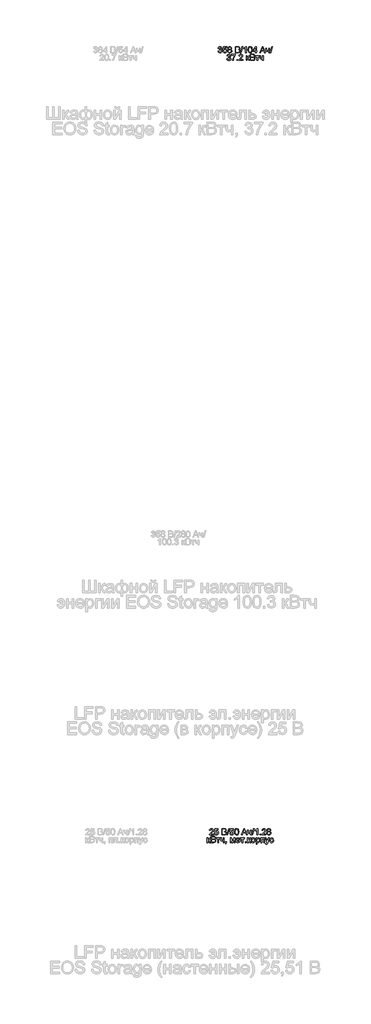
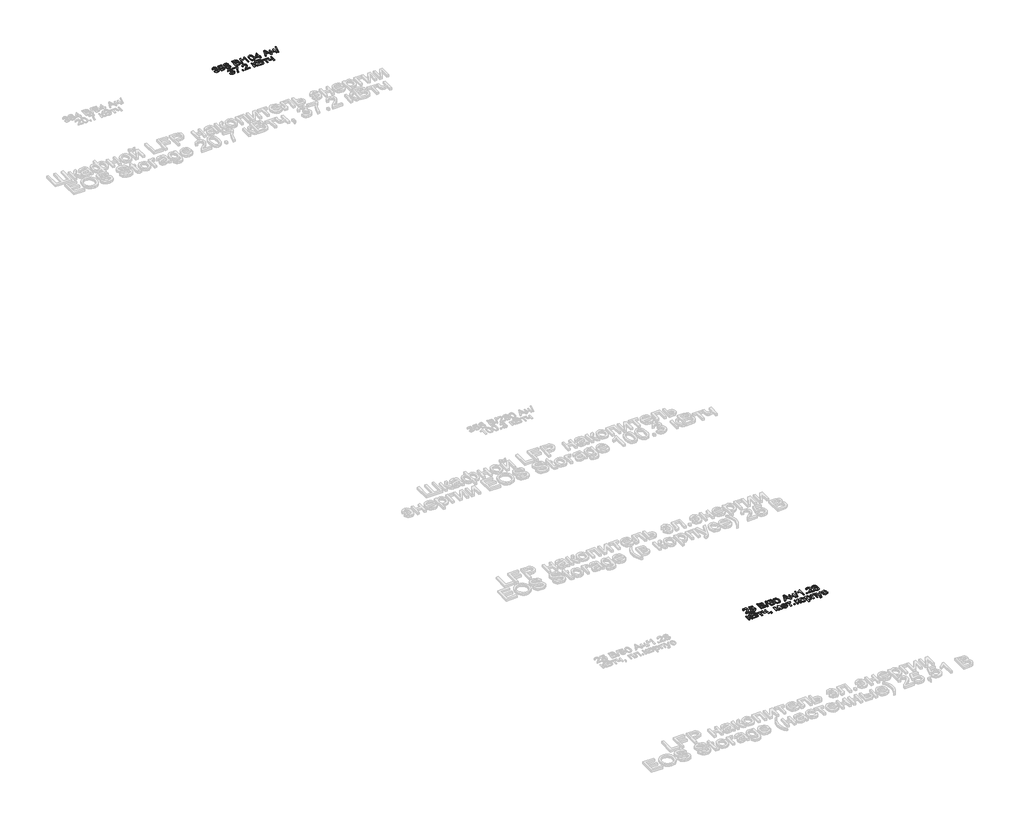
# One storey, part 26 of 26: 2 proxies.
"""IFC4 building model written with IfcOpenShell, lengths in millimetres."""

import ifcopenshell
import ifcopenshell.guid

model = None  # the IFC model being written
_history = None  # IfcOwnerHistory: only IFC2X3 demands one
_inside = {}  # id of a spatial element -> (the spatial element, [elements in it])
_under = {}  # id of a project, library or spatial element -> (it, [spatial elements below it])
_declared = {}  # id of a project -> (the project, [libraries it declares])
_typed = {}  # id of a type object -> (the type object, [elements of that type])
_made_of = {}  # id of a material, layer set ... -> (it, [elements and type objects made of it])


def new_model(schema):
    """Start an empty IFC model of exactly this schema.

    Asked for "IFC4X3", IfcOpenShell would pick the latest addendum, in which some entities
    have other attributes; the version numbers below select the first issue.
    IFC2X3 requires an IfcOwnerHistory on every rooted entity: one is made here for all.
    """
    global model, _history
    if schema == "IFC4X3":
        model = ifcopenshell.file(schema_version=(4, 3, 0, 0))
    else:
        model = ifcopenshell.file(schema=schema)
    _inside.clear()
    _under.clear()
    _declared.clear()
    _typed.clear()
    _made_of.clear()
    _history = None
    if model.schema == "IFC2X3":
        org = make("IfcOrganization", Name="unknown")
        user = make(
            "IfcPersonAndOrganization",
            ThePerson=make("IfcPerson", FamilyName="unknown"),
            TheOrganization=org,
        )
        app = make(
            "IfcApplication",
            ApplicationDeveloper=org,
            Version="unknown",
            ApplicationFullName="unknown",
            ApplicationIdentifier="unknown",
        )
        _history = make(
            "IfcOwnerHistory",
            OwningUser=user,
            OwningApplication=app,
            ChangeAction="ADDED",
            CreationDate=0,
        )
    return model


def make(cls, **values):
    """One entity of the class cls with the attributes given. An attribute that is None is left unset."""
    return model.create_entity(
        cls, **{name: value for name, value in values.items() if value is not None}
    )


def rooted(cls, **values):
    """An entity with a GlobalId (a new one), such as an element, a storey or a relation."""
    return make(cls, GlobalId=ifcopenshell.guid.new(), OwnerHistory=_history, **values)


def si_unit(unit_type, name, prefix=None):
    """IfcSIUnit, for example si_unit("LENGTHUNIT", "METRE", prefix="MILLI")."""
    return make("IfcSIUnit", UnitType=unit_type, Prefix=prefix, Name=name)


def assignment(units):
    """IfcUnitAssignment: the units of a project."""
    return None if units is None else make("IfcUnitAssignment", Units=units)


def point(xyz):
    """IfcCartesianPoint."""
    return None if xyz is None else make("IfcCartesianPoint", Coordinates=xyz)


def direction(xyz):
    """IfcDirection."""
    return None if xyz is None else make("IfcDirection", DirectionRatios=xyz)


def frame(location, z_axis=None, x_axis=None):
    """IfcAxis2Placement3D, a coordinate frame: its origin and axes. An axis left out is left unset."""
    return make(
        "IfcAxis2Placement3D",
        Location=point(location),
        Axis=direction(z_axis),
        RefDirection=direction(x_axis),
    )


def origin():
    """The frame at (0, 0, 0) with its axes left unset."""
    return frame((0.0, 0.0, 0.0))


def origin_with_axes():
    """The frame at (0, 0, 0) with the z axis (0, 0, 1) and the x axis (1, 0, 0) written out."""
    return frame((0.0, 0.0, 0.0), z_axis=(0.0, 0.0, 1.0), x_axis=(1.0, 0.0, 0.0))


def place(relative_to, where):
    """IfcLocalPlacement: puts the frame where relative to a parent placement (None: the world)."""
    return make(
        "IfcLocalPlacement", PlacementRelTo=relative_to, RelativePlacement=where
    )


def context(
    kind, dimensions, precision=None, world=None, true_north=None, identifier=None
):
    """IfcGeometricRepresentationContext, for example the 3D "Model" context."""
    return make(
        "IfcGeometricRepresentationContext",
        ContextIdentifier=identifier,
        ContextType=kind,
        CoordinateSpaceDimension=dimensions,
        Precision=precision,
        WorldCoordinateSystem=world,
        TrueNorth=true_north,
    )


def project(units=None, contexts=None):
    """IfcProject with its units and contexts."""
    return rooted(
        "IfcProject",
        Name="project",
        RepresentationContexts=contexts,
        UnitsInContext=assignment(units),
    )


def spatial(cls, under=None, at=None, **own):
    """A site, building, storey or space (cls), placed at a placement, below another one or the project."""
    s = rooted(cls, ObjectPlacement=at, **own)
    if under is not None:
        _under.setdefault(under.id(), (under, []))[1].append(s)
    return s


def polyline(points):
    """IfcPolyline through the points."""
    return make("IfcPolyline", Points=[point(p) for p in points])


def outline(outer, holes=None, kind="AREA"):
    """IfcArbitraryClosedProfileDef: a profile drawn as a closed curve; with holes, ...WithVoids."""
    if holes is None:
        return make("IfcArbitraryClosedProfileDef", ProfileType=kind, OuterCurve=outer)
    return make(
        "IfcArbitraryProfileDefWithVoids",
        ProfileType=kind,
        OuterCurve=outer,
        InnerCurves=holes,
    )


def extrude(swept, where, along, depth):
    """IfcExtrudedAreaSolid: the profile swept, set in the frame where, extruded along a direction by depth."""
    return make(
        "IfcExtrudedAreaSolid",
        SweptArea=swept,
        Position=where,
        ExtrudedDirection=direction(along),
        Depth=depth,
    )


def shape(context_of_items, identifier, shape_type, items):
    """IfcShapeRepresentation: the items that make up one representation, for example the "Body"."""
    return make(
        "IfcShapeRepresentation",
        ContextOfItems=context_of_items,
        RepresentationIdentifier=identifier,
        RepresentationType=shape_type,
        Items=items,
    )


def made_of(thing, what):
    """Note that an element or type object is made of a material, layer set ...; save() writes the relation."""
    if what is not None:
        _made_of.setdefault(what.id(), (what, []))[1].append(thing)
    return thing


def element(
    cls,
    number,
    at=None,
    inside=None,
    cuts=None,
    type_object=None,
    material=None,
    context=None,
    identifier="Body",
    shape_type=None,
    held_by="IfcProductDefinitionShape",
    body=None,
    shapes=None,
    **own,
):
    """One element of the class cls, such as IfcWall. Its Tag is "e" and its number.

    at: its placement. inside: the storey or other place that contains it. cuts: it is an
    opening in that element (IfcRelVoidsElement). A single representation is given by context,
    identifier, shape_type and body (its items); several are given by shapes. held_by: the class
    of the entity that holds the representations. save() writes the other relations.
    """
    e = rooted(cls, Tag="e%d" % number, ObjectPlacement=at, **own)
    if body is not None:
        shapes = [shape(context, identifier, shape_type, body)]
    if shapes is not None:
        e.Representation = make(held_by, Representations=shapes)
    if inside is not None:
        _inside.setdefault(inside.id(), (inside, []))[1].append(e)
    if cuts is not None:
        rooted(
            "IfcRelVoidsElement", RelatingBuildingElement=cuts, RelatedOpeningElement=e
        )
    if type_object is not None:
        _typed.setdefault(type_object.id(), (type_object, []))[1].append(e)
    return made_of(e, material)


def aggregate(whole, parts):
    """IfcRelAggregates: a whole, such as a stair, and the parts it consists of."""
    return rooted("IfcRelAggregates", RelatingObject=whole, RelatedObjects=parts)


def save(model, path):
    """Write the relations noted so far, then the file.

    IfcRelAggregates (storeys below a building ...), IfcRelContainedInSpatialStructure (elements
    in a storey), IfcRelDefinesByType, IfcRelAssociatesMaterial and IfcRelDeclares: one each for
    every whole, place, type object, material and project.
    """
    for whole, parts in _under.values():
        aggregate(whole, parts)
    for where, things in _inside.values():
        rooted(
            "IfcRelContainedInSpatialStructure",
            RelatedElements=things,
            RelatingStructure=where,
        )
    for kind, things in _typed.values():
        rooted("IfcRelDefinesByType", RelatedObjects=things, RelatingType=kind)
    for what, things in _made_of.values():
        rooted("IfcRelAssociatesMaterial", RelatedObjects=things, RelatingMaterial=what)
    for by, libraries in _declared.values():
        rooted("IfcRelDeclares", RelatingContext=by, RelatedDefinitions=libraries)
    model.write(path)


model = new_model("IFC4")

# Units and contexts
model_context = context("Model", 3, world=origin())
ifc_project = project(units=[si_unit("LENGTHUNIT", "METRE", prefix="MILLI")], contexts=[model_context])

# Site, building, storey
site = spatial("IfcSite", under=ifc_project)
building = spatial("IfcBuilding", under=site)
storey = spatial("IfcBuildingStorey", under=building, Name="Этаж 01", Elevation=0.0)

# Proxies
placement = place(None, origin())
element("IfcBuildingElementProxy", 1, Name="75 мм Arial", ObjectType="75 мм Arial", at=placement, inside=storey, context=model_context, shape_type="SweptSolid", body=[
    extrude(outline(polyline([(15903.9433357, -15385.2842708), (15903.9433357, -15394.7020499), (15854.4999955, -15394.7020499), (15855.511671, -15388.2089327), (15861.2322361, -15378.2117395), (15873.022854, -15367.2948413), (15889.2832382, -15351.6046742), (15893.3483342, -15340.9360963), (15889.5131644, -15332.3000665), (15879.4975771, -15328.7775964), (15869.0589255, -15332.217293), (15865.094997, -15341.7270426), (15855.6772179, -15340.5498202), (15857.9603856, -15331.4401423), (15862.8969021, -15324.7860767), (15870.2292501, -15320.7163821), (15879.6999122, -15319.3598173), (15889.2395522, -15320.8681335), (15896.5581046, -15325.393082), (15901.2141111, -15332.1529137), (15902.7661133, -15340.3658792), (15901.0922502, -15349.2962146), (15895.5280351, -15358.5300527), (15882.0359629, -15371.4335137), (15871.2018381, -15380.4926078), (15866.9528011, -15385.2842708), (15903.9433357, -15385.2842708)])), origin_with_axes(), (0.0, 0.0, 1.0), 5.0),
    extrude(outline(polyline([(15913.3611148, -15374.6892694), (15922.7788938, -15373.512047), (15927.5245716, -15383.2149346), (15937.365415, -15386.4614932), (15949.174427, -15381.9457417), (15953.3866758, -15369.9619857), (15949.4411414, -15358.7783731), (15937.5125678, -15354.6764888), (15929.2444199, -15356.3135637), (15923.9561162, -15360.5626007), (15914.5383372, -15359.3853784), (15922.7788938, -15320.5370397), (15959.2727878, -15320.5370397), (15959.2727878, -15329.9548187), (15930.3940511, -15329.9548187), (15926.3657433, -15350.7033633), (15940.142924, -15345.2587097), (15948.9422015, -15346.9463684), (15956.2469584, -15352.0093444), (15961.1650808, -15359.7256692), (15962.8044549, -15369.3733745), (15961.3283284, -15378.7911536), (15956.8999489, -15386.8477693), (15948.4202689, -15393.6213965), (15937.3286268, -15395.8792723), (15928.0786938, -15394.4284377), (15920.7095576, -15390.0759338), (15915.658078, -15383.3275985), (15913.3611148, -15374.6892694)])), origin_with_axes(), (0.0, 0.0, 1.0), 5.0),
    extrude(outline(polyline([(16004.0072384, -15394.7020499), (16004.0072384, -15319.3598173), (16032.7572163, -15319.3598173), (16046.8378997, -15321.5763063), (16055.1520328, -15328.3913203), (16058.1594681, -15338.0298285), (16055.6302794, -15346.8314053), (16047.9875309, -15353.4992664), (16057.2673542, -15360.5258125), (16060.5139128, -15372.2428541), (16058.2974238, -15382.368806), (16052.806785, -15389.5792931), (16044.6122136, -15393.4052659), (16032.5364871, -15394.7020499), (16004.0072384, -15394.7020499)]), holes=[polyline([(16013.4250175, -15349.9675993), (16030.6235007, -15349.9675993), (16040.6666792, -15349.1582589), (16046.709141, -15345.672577), (16048.741689, -15339.5381447), (16046.8470967, -15333.3945154), (16041.4208373, -15329.7616807), (16029.3175196, -15328.7775964), (16013.4250175, -15328.7775964), (16013.4250175, -15349.9675993)]), polyline([(16013.4250175, -15385.2842708), (16032.7388222, -15385.2842708), (16039.7285801, -15384.9163888), (16045.6422832, -15382.8654467), (16049.5602264, -15378.680789), (16051.0961338, -15372.3348246), (16049.293512, -15365.0139729), (16043.4533853, -15360.6453742), (16031.8191172, -15359.3853784), (16013.4250175, -15359.3853784), (16013.4250175, -15385.2842708)])]), origin_with_axes(), (0.0, 0.0, 1.0), 5.0),
    extrude(outline(polyline([(16065.2228024, -15394.7020499), (16086.4128053, -15319.3598173), (16094.9108794, -15319.3598173), (16073.7208765, -15394.7020499), (16065.2228024, -15394.7020499)])), origin_with_axes(), (0.0, 0.0, 1.0), 5.0),
    extrude(outline(polyline([(16099.3622515, -15374.6892694), (16108.7800306, -15373.512047), (16113.5257083, -15383.2149346), (16123.3665517, -15386.4614932), (16135.1755638, -15381.9457417), (16139.3878126, -15369.9619857), (16135.4422782, -15358.7783731), (16123.5137045, -15354.6764888), (16115.2455567, -15356.3135637), (16109.957253, -15360.5626007), (16100.5394739, -15359.3853784), (16108.7800306, -15320.5370397), (16145.2739245, -15320.5370397), (16145.2739245, -15329.9548187), (16116.3951879, -15329.9548187), (16112.3668801, -15350.7033633), (16126.1440608, -15345.2587097), (16134.9433383, -15346.9463684), (16142.2480951, -15352.0093444), (16147.1662175, -15359.7256692), (16148.8055917, -15369.3733745), (16147.3294652, -15378.7911536), (16142.9010857, -15386.8477693), (16134.4214057, -15393.6213965), (16123.3297635, -15395.8792723), (16114.0798306, -15394.4284377), (16106.7106944, -15390.0759338), (16101.6592147, -15383.3275985), (16099.3622515, -15374.6892694)])), origin_with_axes(), (0.0, 0.0, 1.0), 5.0),
    extrude(outline(polyline([(16157.0461484, -15357.6379389), (16159.8144604, -15335.9604923), (16168.036623, -15323.4617015), (16181.7678185, -15319.3598173), (16192.7674901, -15321.7878385), (16200.3642533, -15328.7867934), (16204.7788372, -15339.9336179), (16206.4894885, -15357.6379389), (16203.7487677, -15379.223415), (16195.5541962, -15391.7497969), (16181.7678185, -15395.8792723), (16171.9821574, -15394.0858476), (16164.5509411, -15388.7055734), (16158.9223466, -15375.9630608), (16157.0461484, -15357.6379389)]), holes=[polyline([(16166.4639275, -15357.6195448), (16167.5675734, -15372.4336929), (16170.8785114, -15381.0076426), (16181.7678185, -15386.4614932), (16192.6571255, -15380.9892485), (16195.9680635, -15372.4107003), (16197.0717095, -15357.6195448), (16192.8042783, -15334.4981614), (16181.6574539, -15328.7775964), (16171.0256642, -15333.8175797), (16167.6043616, -15342.9962355), (16166.4639275, -15357.6195448)])]), origin_with_axes(), (0.0, 0.0, 1.0), 5.0),
    extrude(outline(polyline([(16238.9182864, -15394.7020499), (16268.9926395, -15319.3598173), (16277.012467, -15319.3598173), (16307.0868201, -15394.7020499), (16297.1356121, -15394.7020499), (16288.5087794, -15371.1576022), (16257.4779331, -15371.1576022), (16248.8694944, -15394.7020499), (16238.9182864, -15394.7020499)]), holes=[polyline([(16260.9360238, -15361.7398231), (16285.0690827, -15361.7398231), (16278.2816599, -15343.2169647), (16273.0025533, -15328.7775964), (16268.3120578, -15341.5982839), (16260.9360238, -15361.7398231)])]), origin_with_axes(), (0.0, 0.0, 1.0), 5.0),
    extrude(outline(polyline([(16312.4395031, -15339.3725978), (16321.8572822, -15339.3725978), (16321.8572822, -15349.9859934), (16322.6206374, -15359.9372014), (16326.2902603, -15365.3266726), (16333.5743238, -15367.6259351), (16346.5789523, -15364.7748496), (16346.5789523, -15339.3725978), (16355.9967314, -15339.3725978), (16355.9967314, -15394.7020499), (16346.5789523, -15394.7020499), (16346.5789523, -15373.8063526), (16331.0543321, -15377.0437141), (16320.3765572, -15373.6683968), (16314.0949721, -15365.400249), (16312.4395031, -15354.6397006), (16312.4395031, -15339.3725978)])), origin_with_axes(), (0.0, 0.0, 1.0), 5.0),
    extrude(outline(polyline([(16363.0600657, -15394.7020499), (16384.2500686, -15319.3598173), (16392.7481427, -15319.3598173), (16371.5581398, -15394.7020499), (16363.0600657, -15394.7020499)])), origin_with_axes(), (0.0, 0.0, 1.0), 5.0),
    extrude(outline(polyline([(16432.5161864, -15394.7020499), (16423.0984073, -15394.7020499), (16423.0984073, -15335.9880835), (16414.1772689, -15342.3432449), (16404.2628491, -15347.0981197), (16404.2628491, -15338.1953754), (16418.067621, -15329.3846017), (16426.4461334, -15319.3598173), (16432.5161864, -15319.3598173), (16432.5161864, -15394.7020499)])), origin_with_axes(), (0.0, 0.0, 1.0), 5.0),
    extrude(outline(polyline([(16459.5923012, -15394.7020499), (16459.5923012, -15385.2842708), (16469.0100803, -15385.2842708), (16469.0100803, -15394.7020499), (16459.5923012, -15394.7020499)])), origin_with_axes(), (0.0, 0.0, 1.0), 5.0),
    extrude(outline(polyline([(16532.5800891, -15385.2842708), (16532.5800891, -15394.7020499), (16483.1367489, -15394.7020499), (16484.1484244, -15388.2089327), (16489.8689894, -15378.2117395), (16501.6596074, -15367.2948413), (16517.9199915, -15351.6046742), (16521.9850876, -15340.9360963), (16518.1499178, -15332.3000665), (16508.1343305, -15328.7775964), (16497.6956789, -15332.217293), (16493.7317504, -15341.7270426), (16484.3139713, -15340.5498202), (16486.5971389, -15331.4401423), (16491.5336554, -15324.7860767), (16498.8660035, -15320.7163821), (16508.3366656, -15319.3598173), (16517.8763056, -15320.8681335), (16525.194858, -15325.393082), (16529.8508645, -15332.1529137), (16531.4028667, -15340.3658792), (16529.7290036, -15349.2962146), (16524.1647884, -15358.5300527), (16510.6727162, -15371.4335137), (16499.8385915, -15380.4926078), (16495.5895544, -15385.2842708), (16532.5800891, -15385.2842708)])), origin_with_axes(), (0.0, 0.0, 1.0), 5.0),
    extrude(outline(polyline([(16555.7198665, -15353.2049608), (16547.139019, -15347.3556371), (16544.3523129, -15338.2505577), (16545.8698261, -15330.8883193), (16550.4223658, -15324.8044708), (16557.4994957, -15320.7209807), (16566.5907795, -15319.3598173), (16575.7372456, -15320.7531703), (16582.906346, -15324.9332295), (16587.5416591, -15331.113647), (16589.0867635, -15338.5080751), (16586.3368456, -15347.3832283), (16577.9951214, -15353.2049608), (16588.0107087, -15360.5901919), (16591.4412083, -15372.776283), (16589.7397541, -15381.7801948), (16584.6353914, -15389.2206082), (16576.7535196, -15394.2146063), (16566.7195382, -15395.8792723), (16556.6855568, -15394.2077085), (16548.803685, -15389.193017), (16543.6993224, -15381.6813265), (16541.9978681, -15372.5187656), (16545.5663235, -15360.047566), (16555.7198665, -15353.2049608)]), holes=[polyline([(16553.770092, -15338.5264692), (16557.1086211, -15345.9208973), (16566.8299028, -15348.7903769), (16576.3580465, -15345.9392914), (16579.6689844, -15338.9495335), (16576.2476819, -15331.7114553), (16566.7195382, -15328.7775964), (16557.1638034, -15331.6470759), (16553.770092, -15338.5264692)]), polyline([(16551.4156472, -15372.1876718), (16552.9883427, -15379.2785972), (16558.5525579, -15384.585295), (16566.7931146, -15386.4614932), (16578.0135155, -15382.5159588), (16582.0234292, -15372.4819774), (16577.8847568, -15362.2548579), (16566.4804149, -15358.208156), (16555.3979698, -15362.1996756), (16551.4156472, -15372.1876718)])]), origin_with_axes(), (0.0, 0.0, 1.0), 5.0),
    extrude(outline(polyline([(15827.4238807, -15430.8537112), (15836.8416598, -15430.8537112), (15836.8416598, -15454.3981589), (15843.150836, -15452.7059017), (15848.319578, -15442.8466642), (15852.6146003, -15434.3393931), (15856.4037849, -15431.5710811), (15863.2923752, -15430.8537112), (15865.094997, -15430.8537112), (15865.094997, -15440.3266726), (15862.5566112, -15440.2714903), (15857.9580863, -15441.2647717), (15854.7207247, -15447.4635833), (15850.9223431, -15454.1682327), (15845.5972513, -15457.4515795), (15857.3694751, -15468.8375272), (15867.4494418, -15486.1831633), (15856.7440757, -15486.1831633), (15846.8664441, -15469.2054092), (15841.9000372, -15462.0225132), (15836.8416598, -15460.2842708), (15836.8416598, -15486.1831633), (15827.4238807, -15486.1831633), (15827.4238807, -15430.8537112)])), origin_with_axes(), (0.0, 0.0, 1.0), 5.0),
    extrude(outline(polyline([(15874.5127761, -15486.1831633), (15874.5127761, -15410.8409307), (15903.262754, -15410.8409307), (15917.3434374, -15413.0574197), (15925.6575705, -15419.8724337), (15928.6650058, -15429.5109419), (15926.1358171, -15438.3125187), (15918.4930686, -15444.9803798), (15927.7728919, -15452.0069259), (15931.0194505, -15463.7239675), (15928.8029615, -15473.8499194), (15923.3123227, -15481.0604065), (15915.1177513, -15484.8863792), (15903.0420248, -15486.1831633), (15874.5127761, -15486.1831633)]), holes=[polyline([(15883.9305552, -15441.4487127), (15901.1290384, -15441.4487127), (15911.1722169, -15440.6393723), (15917.2146787, -15437.1536904), (15919.2472267, -15431.0192581), (15917.3526344, -15424.8756288), (15911.926375, -15421.2427941), (15899.8230573, -15420.2587097), (15883.9305552, -15420.2587097), (15883.9305552, -15441.4487127)]), polyline([(15883.9305552, -15476.7653842), (15903.2443599, -15476.7653842), (15910.2341178, -15476.3975022), (15916.1478209, -15474.3465601), (15920.0657641, -15470.1619024), (15921.6016715, -15463.815938), (15919.7990497, -15456.4950863), (15913.958923, -15452.1264876), (15902.3246549, -15450.8664917), (15883.9305552, -15450.8664917), (15883.9305552, -15476.7653842)])]), origin_with_axes(), (0.0, 0.0, 1.0), 5.0),
    extrude(outline(polyline([(15938.0827848, -15430.8537112), (15982.8172355, -15430.8537112), (15982.8172355, -15440.2714903), (15965.1588997, -15440.2714903), (15965.1588997, -15486.1831633), (15955.7411206, -15486.1831633), (15955.7411206, -15440.2714903), (15938.0827848, -15440.2714903), (15938.0827848, -15430.8537112)])), origin_with_axes(), (0.0, 0.0, 1.0), 5.0),
    extrude(outline(polyline([(15987.526125, -15430.8537112), (15996.9439041, -15430.8537112), (15996.9439041, -15441.4671068), (15997.7072592, -15451.4183147), (16001.3768821, -15456.807786), (16008.6609456, -15459.1070484), (16021.6655741, -15456.255963), (16021.6655741, -15430.8537112), (16031.0833532, -15430.8537112), (16031.0833532, -15486.1831633), (16021.6655741, -15486.1831633), (16021.6655741, -15465.287466), (16006.140954, -15468.5248275), (15995.463179, -15465.1495102), (15989.181594, -15456.8813624), (15987.526125, -15446.120814), (15987.526125, -15430.8537112)])), origin_with_axes(), (0.0, 0.0, 1.0), 5.0),
    extrude(outline(polyline([(16047.5644666, -15486.1831633), (16047.5644666, -15476.7653842), (16056.9822457, -15476.7653842), (16056.9822457, -15486.1831633), (16055.2899885, -15495.8124745), (16049.9189114, -15501.4870543), (16047.5644666, -15497.9553871), (16051.0225574, -15493.8902911), (16052.254962, -15486.1831633), (16047.5644666, -15486.1831633)])), origin_with_axes(), (0.0, 0.0, 1.0), 5.0),
    extrude(outline(polyline([(16104.0711411, -15430.8537112), (16120.276343, -15430.8537112), (16132.7659367, -15475.1467034), (16146.2304177, -15430.8537112), (16161.7550379, -15430.8537112), (16161.7550379, -15486.1831633), (16152.3372588, -15486.1831633), (16152.3372588, -15441.6326537), (16138.7992014, -15486.1831633), (16126.4383664, -15486.1831633), (16113.4889201, -15439.4989381), (16113.4889201, -15486.1831633), (16104.0711411, -15486.1831633), (16104.0711411, -15430.8537112)])), origin_with_axes(), (0.0, 0.0, 1.0), 5.0),
    extrude(outline(polyline([(16214.6196806, -15469.7020499), (16223.8535187, -15470.8792723), (16215.2174889, -15483.0377722), (16199.1318486, -15487.3603857), (16188.0815932, -15485.4956838), (16179.5789206, -15479.9015782), (16174.1572597, -15470.9413524), (16172.3500394, -15458.9782897), (16174.1756538, -15446.6128562), (16179.652497, -15437.3652225), (16188.0402065, -15431.5986722), (16198.5984197, -15429.6764888), (16208.8278385, -15431.5940737), (16217.0017165, -15437.3468284), (16222.3612974, -15446.576068), (16224.1478243, -15458.9231074), (16224.092642, -15461.4614932), (16181.7678185, -15461.4614932), (16187.1848808, -15473.6935695), (16199.3157896, -15477.9426066), (16208.5496277, -15475.9744379), (16214.6196806, -15469.7020499)]), holes=[polyline([(16181.7678185, -15452.0437141), (16214.7300452, -15452.0437141), (16210.9592548, -15443.5088518), (16198.5616315, -15439.0942679), (16186.9641516, -15442.616738), (16181.7678185, -15452.0437141)])]), origin_with_axes(), (0.0, 0.0, 1.0), 5.0),
    extrude(outline(polyline([(16228.8567138, -15430.8537112), (16273.5911644, -15430.8537112), (16273.5911644, -15440.2714903), (16255.9328287, -15440.2714903), (16255.9328287, -15486.1831633), (16246.5150496, -15486.1831633), (16246.5150496, -15440.2714903), (16228.8567138, -15440.2714903), (16228.8567138, -15430.8537112)])), origin_with_axes(), (0.0, 0.0, 1.0), 5.0),
    extrude(outline(polyline([(16284.1861659, -15486.1831633), (16284.1861659, -15476.7653842), (16293.603945, -15476.7653842), (16293.603945, -15486.1831633), (16284.1861659, -15486.1831633)])), origin_with_axes(), (0.0, 0.0, 1.0), 5.0),
    extrude(outline(polyline([(16311.2622808, -15430.8537112), (16320.6800598, -15430.8537112), (16320.6800598, -15454.3981589), (16326.989236, -15452.7059017), (16332.1579781, -15442.8466642), (16336.4530004, -15434.3393931), (16340.2421849, -15431.5710811), (16347.1307753, -15430.8537112), (16348.9333971, -15430.8537112), (16348.9333971, -15440.3266726), (16346.3950113, -15440.2714903), (16341.7964864, -15441.2647717), (16338.5591248, -15447.4635833), (16334.7607432, -15454.1682327), (16329.4356513, -15457.4515795), (16341.2078752, -15468.8375272), (16351.2878418, -15486.1831633), (16340.5824758, -15486.1831633), (16330.7048442, -15469.2054092), (16325.7384373, -15462.0225132), (16320.6800598, -15460.2842708), (16320.6800598, -15486.1831633), (16311.2622808, -15486.1831633), (16311.2622808, -15430.8537112)])), origin_with_axes(), (0.0, 0.0, 1.0), 5.0),
    extrude(outline(polyline([(16354.819509, -15458.5184372), (16356.8566555, -15445.1781164), (16362.9680952, -15435.801724), (16370.5188731, -15431.2077976), (16379.5595732, -15429.6764888), (16389.4532996, -15431.5411907), (16397.3558647, -15437.1352963), (16402.536103, -15446.0173472), (16404.2628491, -15457.7458851), (16401.2094286, -15474.5029099), (16392.3158813, -15483.9850684), (16379.5595732, -15487.3603857), (16369.5462851, -15485.5025816), (16361.652917, -15479.9291694), (16356.527861, -15470.8608782), (16354.819509, -15458.5184372)]), holes=[polyline([(16364.2372881, -15458.5000431), (16368.5966897, -15473.0957613), (16379.5595732, -15477.9426066), (16390.4856684, -15473.0681702), (16394.8450701, -15458.2057375), (16390.4580773, -15443.9411132), (16379.5595732, -15439.0942679), (16368.5966897, -15443.9227191), (16364.2372881, -15458.5000431)])]), origin_with_axes(), (0.0, 0.0, 1.0), 5.0),
    extrude(outline(polyline([(16414.8578506, -15507.3731662), (16414.8578506, -15430.8537112), (16424.2756297, -15430.8537112), (16424.2756297, -15440.0875493), (16430.787141, -15432.2792539), (16439.5795207, -15429.6764888), (16451.5172914, -15433.3185206), (16459.3163897, -15443.5824282), (16461.946746, -15458.0953729), (16458.9760989, -15473.3532787), (16450.3492661, -15483.7459451), (16438.4390865, -15487.3603857), (16430.244515, -15484.9415615), (16424.2756297, -15478.8255234), (16424.2756297, -15507.3731662), (16414.8578506, -15507.3731662)]), holes=[polyline([(16424.2756297, -15458.9598956), (16428.3499228, -15473.3072935), (16438.2367514, -15477.9426066), (16448.3259151, -15473.1417466), (16452.5289669, -15458.2609198), (16448.4270827, -15443.8767338), (16438.6230275, -15439.0942679), (16428.6258343, -15444.1802365), (16424.2756297, -15458.9598956)])]), origin_with_axes(), (0.0, 0.0, 1.0), 5.0),
    extrude(outline(polyline([(16472.5417474, -15430.8537112), (16514.9217533, -15430.8537112), (16514.9217533, -15486.1831633), (16505.5039742, -15486.1831633), (16505.5039742, -15440.2714903), (16481.9595265, -15440.2714903), (16481.9595265, -15486.1831633), (16472.5417474, -15486.1831633), (16472.5417474, -15430.8537112)])), origin_with_axes(), (0.0, 0.0, 1.0), 5.0),
    extrude(outline(polyline([(16529.0484219, -15507.3731662), (16527.8711995, -15498.304875), (16532.6536655, -15499.1326095), (16537.1234317, -15498.0933429), (16539.8641526, -15495.1962722), (16542.4393265, -15488.2616966), (16543.1750905, -15485.9808282), (16523.16231, -15430.8537112), (16533.0951238, -15430.8537112), (16543.7085194, -15461.5718578), (16547.4057335, -15473.8591164), (16551.1029475, -15463.0065976), (16562.0106487, -15430.8537112), (16571.8698861, -15430.8537112), (16552.6112637, -15487.5075385), (16547.6080686, -15499.7947971), (16542.1450209, -15506.4350671), (16534.8057751, -15508.5503886), (16529.0484219, -15507.3731662)])), origin_with_axes(), (0.0, 0.0, 1.0), 5.0),
    extrude(outline(polyline([(16614.985656, -15466.1703827), (16624.403435, -15467.3476051), (16616.84346, -15482.0536879), (16601.907451, -15487.3603857), (16591.8895645, -15485.5094794), (16584.0559772, -15479.9567605), (16578.9998991, -15470.9459509), (16577.3145397, -15458.7207723), (16580.1932163, -15443.0765905), (16588.9672019, -15433.024215), (16601.7786923, -15429.6764888), (16616.098499, -15434.2750138), (16623.2262127, -15447.3348246), (16613.8084336, -15448.512047), (16609.4398349, -15441.4579097), (16601.8522687, -15439.0942679), (16590.9353705, -15443.7479751), (16586.7323187, -15458.4632549), (16590.8434, -15473.3164905), (16601.5947513, -15477.9426066), (16610.4699045, -15475.0547329), (16614.985656, -15466.1703827)])), origin_with_axes(), (0.0, 0.0, 1.0), 5.0),
])
element("IfcBuildingElementProxy", 2, Name="75 мм Arial", ObjectType="75 мм Arial", at=placement, inside=storey, context=model_context, shape_type="SweptSolid", body=[
    extrude(outline(polyline([(15958.4812532, -6023.5163165), (15967.8990323, -6022.3390941), (15973.0953655, -6032.2535139), (15982.8166472, -6035.2885403), (15994.2577772, -6031.1130797), (15998.5068143, -6020.7755956), (15994.2945654, -6011.0359198), (15983.5891994, -6007.1823559), (15976.9857176, -6008.2124255), (15978.0341812, -5998.7946464), (15990.2294694, -5996.2010783), (15994.9751471, -5987.8869452), (15991.5354505, -5980.5201083), (15982.6694944, -5977.6046435), (15973.6931737, -5980.5476994), (15969.0762547, -5989.3768673), (15959.6584756, -5988.1996449), (15967.3656034, -5973.4291828), (15982.3384006, -5968.1868644), (15993.6967572, -5970.7712354), (16001.6430083, -5977.8345697), (16004.3929262, -5987.3351222), (16001.780964, -5996.0171373), (15994.0554421, -6002.2527371), (16004.3193498, -6008.6906721), (16007.9245934, -6020.9411425), (16006.1219716, -6030.1197983), (16000.7141062, -6037.7901379), (15992.5517245, -6042.977274), (15982.4855534, -6044.7063194), (15973.380474, -6043.2301929), (15965.9676518, -6038.8018134), (15960.8127053, -6032.0281861), (15958.4812532, -6023.5163165)])), origin_with_axes(), (0.0, 0.0, 1.0), 5.0),
    extrude(outline(polyline([(16016.16515, -6023.5163165), (16025.5829291, -6022.3390941), (16030.3286069, -6032.0419817), (16040.1694502, -6035.2885403), (16051.9784623, -6030.7727888), (16056.1907111, -6018.7890328), (16052.2451767, -6007.6054202), (16040.316603, -6003.5035359), (16032.0484552, -6005.1406108), (16026.7601515, -6009.3896479), (16017.3423724, -6008.2124255), (16025.5829291, -5969.3640868), (16062.076823, -5969.3640868), (16062.076823, -5978.7818659), (16033.1980864, -5978.7818659), (16029.1697786, -5999.5304104), (16042.9469593, -5994.0857569), (16051.7462368, -5995.7734155), (16059.0509936, -6000.8363915), (16063.9691161, -6008.5527163), (16065.6084902, -6018.2004216), (16064.1323637, -6027.6182007), (16059.7039842, -6035.6748164), (16051.2243042, -6042.4484436), (16040.132662, -6044.7063194), (16030.8827291, -6043.2554848), (16023.5135929, -6038.9029809), (16018.4621132, -6032.1546456), (16016.16515, -6023.5163165)])), origin_with_axes(), (0.0, 0.0, 1.0), 5.0),
    extrude(outline(polyline([(16087.5710453, -6002.0320079), (16078.9901978, -5996.1826842), (16076.2034917, -5987.0776048), (16077.7210049, -5979.7153664), (16082.2735446, -5973.6315179), (16089.3506745, -5969.5480278), (16098.4419583, -5968.1868644), (16107.5884244, -5969.5802174), (16114.7575247, -5973.7602766), (16119.3928379, -5979.9406941), (16120.9379423, -5987.3351222), (16118.1880244, -5996.2102754), (16109.8463001, -6002.0320079), (16119.8618874, -6009.417239), (16123.292387, -6021.6033301), (16121.5909328, -6030.6072419), (16116.4865701, -6038.0476553), (16108.6046984, -6043.0416534), (16098.570717, -6044.7063194), (16088.5367355, -6043.0347556), (16080.6548638, -6038.0200641), (16075.5505011, -6030.5083736), (16073.8490469, -6021.3458127), (16077.4175022, -6008.8746131), (16087.5710453, -6002.0320079)]), holes=[polyline([(16083.266826, -6021.0147189), (16084.8395215, -6028.1056444), (16090.4037367, -6033.4123421), (16098.6442934, -6035.2885403), (16109.8646942, -6031.3430059), (16113.874608, -6021.3090245), (16109.7359355, -6011.081905), (16098.3315937, -6007.0352031), (16087.2491486, -6011.0267227), (16083.266826, -6021.0147189)]), polyline([(16085.6212707, -5987.3535163), (16088.9597998, -5994.7479444), (16098.6810816, -5997.617424), (16108.2092252, -5994.7663385), (16111.5201632, -5987.7765806), (16108.0988606, -5980.5385024), (16098.570717, -5977.6046435), (16089.0149821, -5980.474123), (16085.6212707, -5987.3535163)])]), origin_with_axes(), (0.0, 0.0, 1.0), 5.0),
    extrude(outline(polyline([(16164.4951705, -6043.529097), (16164.4951705, -5968.1868644), (16193.2451484, -5968.1868644), (16207.3258318, -5970.4033534), (16215.6399649, -5977.2183674), (16218.6474002, -5986.8568756), (16216.1182115, -5995.6584524), (16208.475463, -6002.3263135), (16217.7552863, -6009.3528597), (16221.001845, -6021.0699012), (16218.7853559, -6031.1958531), (16213.2947172, -6038.4063402), (16205.1001457, -6042.232313), (16193.0244192, -6043.529097), (16164.4951705, -6043.529097)]), holes=[polyline([(16173.9129496, -5998.7946464), (16191.1114328, -5998.7946464), (16201.1546113, -5997.985306), (16207.1970731, -5994.4996241), (16209.2296211, -5988.3651918), (16207.3350288, -5982.2215625), (16201.9087694, -5978.5887278), (16189.8054518, -5977.6046435), (16173.9129496, -5977.6046435), (16173.9129496, -5998.7946464)]), polyline([(16173.9129496, -6034.1113179), (16193.2267543, -6034.1113179), (16200.2165122, -6033.7434359), (16206.1302153, -6031.6924938), (16210.0481586, -6027.5078361), (16211.5840659, -6021.1618717), (16209.7814441, -6013.84102), (16203.9413174, -6009.4724213), (16192.3070493, -6008.2124255), (16173.9129496, -6008.2124255), (16173.9129496, -6034.1113179)])]), origin_with_axes(), (0.0, 0.0, 1.0), 5.0),
    extrude(outline(polyline([(16225.7107345, -6043.529097), (16246.9007374, -5968.1868644), (16255.3988115, -5968.1868644), (16234.2088086, -6043.529097), (16225.7107345, -6043.529097)])), origin_with_axes(), (0.0, 0.0, 1.0), 5.0),
    extrude(outline(polyline([(16295.1668552, -6043.529097), (16285.7490761, -6043.529097), (16285.7490761, -5984.8151306), (16276.8279377, -5991.170292), (16266.913518, -5995.9251668), (16266.913518, -5987.0224225), (16280.7182898, -5978.2116488), (16289.0968023, -5968.1868644), (16295.1668552, -5968.1868644), (16295.1668552, -6043.529097)])), origin_with_axes(), (0.0, 0.0, 1.0), 5.0),
    extrude(outline(polyline([(16317.5340805, -6006.464986), (16320.3023925, -5984.7875394), (16328.5245551, -5972.2887486), (16342.2557506, -5968.1868644), (16353.2554222, -5970.6148856), (16360.8521854, -5977.6138405), (16365.2667694, -5988.760665), (16366.9774206, -6006.464986), (16364.2366998, -6028.0504621), (16356.0421283, -6040.576844), (16342.2557506, -6044.7063194), (16332.4700895, -6042.9128947), (16325.0388732, -6037.5326205), (16319.4102787, -6024.7901079), (16317.5340805, -6006.464986)]), holes=[polyline([(16326.9518596, -6006.4465919), (16328.0555056, -6021.26074), (16331.3664435, -6029.8346897), (16342.2557506, -6035.2885403), (16353.1450576, -6029.8162956), (16356.4559956, -6021.2377474), (16357.5596416, -6006.4465919), (16353.2922104, -5983.3252085), (16342.145386, -5977.6046435), (16331.5135963, -5982.6446268), (16328.0922938, -5991.8232826), (16326.9518596, -6006.4465919)])]), origin_with_axes(), (0.0, 0.0, 1.0), 5.0),
    extrude(outline(polyline([(16405.8257593, -6043.529097), (16405.8257593, -6025.8707612), (16371.6863102, -6025.8707612), (16371.6863102, -6016.4529822), (16408.1802041, -5969.3640868), (16415.2435384, -5969.3640868), (16415.2435384, -6016.4529822), (16424.6613175, -6016.4529822), (16424.6613175, -6025.8707612), (16415.2435384, -6025.8707612), (16415.2435384, -6043.529097), (16405.8257593, -6043.529097)]), holes=[polyline([(16405.8257593, -6016.4529822), (16405.8257593, -5987.3535163), (16383.274593, -6016.4529822), (16405.8257593, -6016.4529822)])]), origin_with_axes(), (0.0, 0.0, 1.0), 5.0),
    extrude(outline(polyline([(16457.0901154, -6043.529097), (16487.1644685, -5968.1868644), (16495.184296, -5968.1868644), (16525.2586491, -6043.529097), (16515.3074411, -6043.529097), (16506.6806083, -6019.9846493), (16475.649762, -6019.9846493), (16467.0413233, -6043.529097), (16457.0901154, -6043.529097)]), holes=[polyline([(16479.1078528, -6010.5668702), (16503.2409117, -6010.5668702), (16496.4534888, -5992.0440118), (16491.1743822, -5977.6046435), (16486.4838868, -5990.425331), (16479.1078528, -6010.5668702)])]), origin_with_axes(), (0.0, 0.0, 1.0), 5.0),
    extrude(outline(polyline([(16530.6113321, -5988.1996449), (16540.0291112, -5988.1996449), (16540.0291112, -5998.8130405), (16540.7924663, -6008.7642485), (16544.4620892, -6014.1537197), (16551.7461527, -6016.4529822), (16564.7507812, -6013.6018967), (16564.7507812, -5988.1996449), (16574.1685603, -5988.1996449), (16574.1685603, -6043.529097), (16564.7507812, -6043.529097), (16564.7507812, -6022.6333997), (16549.2261611, -6025.8707612), (16538.5483861, -6022.4954439), (16532.2668011, -6014.2272961), (16530.6113321, -6003.4667477), (16530.6113321, -5988.1996449)])), origin_with_axes(), (0.0, 0.0, 1.0), 5.0),
    extrude(outline(polyline([(16581.2318946, -6043.529097), (16602.4218976, -5968.1868644), (16610.9199716, -5968.1868644), (16589.7299687, -6043.529097), (16581.2318946, -6043.529097)])), origin_with_axes(), (0.0, 0.0, 1.0), 5.0),
    extrude(outline(polyline([(16062.076823, -6114.9974299), (16071.4946021, -6113.8202075), (16076.6909353, -6123.7346272), (16086.412217, -6126.7696537), (16097.8533471, -6122.5941931), (16102.1023841, -6112.256709), (16097.8901353, -6102.5170332), (16087.1847692, -6098.6634693), (16080.5812874, -6099.6935389), (16081.6297511, -6090.2757598), (16093.8250392, -6087.6821917), (16098.570717, -6079.3680586), (16095.1310203, -6072.0012217), (16086.2650642, -6069.0857569), (16077.2887435, -6072.0288128), (16072.6718245, -6080.8579807), (16063.2540454, -6079.6807583), (16070.9611732, -6064.9102962), (16085.9339704, -6059.6679778), (16097.292327, -6062.2523488), (16105.2385781, -6069.3156831), (16107.988496, -6078.8162356), (16105.3765339, -6087.4982507), (16097.651012, -6093.7338505), (16107.9149196, -6100.1717854), (16111.5201632, -6112.4222559), (16109.7175414, -6121.6009117), (16104.3096761, -6129.2712513), (16096.1472943, -6134.4583874), (16086.0811232, -6136.1874328), (16076.9760438, -6134.7113063), (16069.5632216, -6130.2829268), (16064.4082752, -6123.5092995), (16062.076823, -6114.9974299)])), origin_with_axes(), (0.0, 0.0, 1.0), 5.0),
    extrude(outline(polyline([(16119.7607199, -6070.2629792), (16119.7607199, -6060.8452002), (16169.20406, -6060.8452002), (16169.20406, -6068.4603575), (16155.178559, -6088.7214583), (16144.4456018, -6114.5375774), (16140.9507228, -6135.0102104), (16131.5329437, -6135.0102104), (16135.276143, -6113.7650252), (16145.5492477, -6089.7515279), (16159.786281, -6070.2629792), (16119.7607199, -6070.2629792)])), origin_with_axes(), (0.0, 0.0, 1.0), 5.0),
    extrude(outline(polyline([(16182.1535063, -6135.0102104), (16182.1535063, -6125.5924313), (16191.5712853, -6125.5924313), (16191.5712853, -6135.0102104), (16182.1535063, -6135.0102104)])), origin_with_axes(), (0.0, 0.0, 1.0), 5.0),
    extrude(outline(polyline([(16255.1412941, -6125.5924313), (16255.1412941, -6135.0102104), (16205.697954, -6135.0102104), (16206.7096294, -6128.5170932), (16212.4301945, -6118.5199), (16224.2208124, -6107.6030017), (16240.4811966, -6091.9128347), (16244.5462926, -6081.2442568), (16240.7111228, -6072.608227), (16230.6955355, -6069.0857569), (16220.2568839, -6072.5254535), (16216.2929554, -6082.0352031), (16206.8751763, -6080.8579807), (16209.158344, -6071.7483028), (16214.0948605, -6065.0942372), (16221.4272085, -6061.0245426), (16230.8978706, -6059.6679778), (16240.4375106, -6061.176294), (16247.7560631, -6065.7012425), (16252.4120696, -6072.4610742), (16253.9640717, -6080.6740397), (16252.2902086, -6089.6043751), (16246.7259935, -6098.8382132), (16233.2339213, -6111.7416742), (16222.3997965, -6120.8007683), (16218.1507595, -6125.5924313), (16255.1412941, -6125.5924313)])), origin_with_axes(), (0.0, 0.0, 1.0), 5.0),
    extrude(outline(polyline([(16296.3440776, -6079.6807583), (16305.7618566, -6079.6807583), (16305.7618566, -6103.225206), (16312.0710329, -6101.5329488), (16317.2397749, -6091.6737114), (16321.5347972, -6083.1664402), (16325.3239817, -6080.3981282), (16332.2125721, -6079.6807583), (16334.0151939, -6079.6807583), (16334.0151939, -6089.1537197), (16331.4768081, -6089.0985374), (16326.8782832, -6090.0918188), (16323.6409216, -6096.2906304), (16319.84254, -6102.9952798), (16314.5174481, -6106.2786266), (16326.289672, -6117.6645743), (16336.3696386, -6135.0102104), (16325.6642726, -6135.0102104), (16315.786641, -6118.0324563), (16310.8202341, -6110.8495604), (16305.7618566, -6109.1113179), (16305.7618566, -6135.0102104), (16296.3440776, -6135.0102104), (16296.3440776, -6079.6807583)])), origin_with_axes(), (0.0, 0.0, 1.0), 5.0),
    extrude(outline(polyline([(16343.432973, -6135.0102104), (16343.432973, -6059.6679778), (16372.1829509, -6059.6679778), (16386.2636342, -6061.8844668), (16394.5777673, -6068.6994808), (16397.5852026, -6078.337989), (16395.0560139, -6087.1395658), (16387.4132655, -6093.8074269), (16396.6930888, -6100.833973), (16399.9396474, -6112.5510146), (16397.7231584, -6122.6769665), (16392.2325196, -6129.8874536), (16384.0379482, -6133.7134264), (16371.9622217, -6135.0102104), (16343.432973, -6135.0102104)]), holes=[polyline([(16352.850752, -6090.2757598), (16370.0492353, -6090.2757598), (16380.0924138, -6089.4664194), (16386.1348755, -6085.9807375), (16388.1674236, -6079.8463052), (16386.2728313, -6073.7026759), (16380.8465719, -6070.0698412), (16368.7432542, -6069.0857569), (16352.850752, -6069.0857569), (16352.850752, -6090.2757598)]), polyline([(16352.850752, -6125.5924313), (16372.1645568, -6125.5924313), (16379.1543147, -6125.2245493), (16385.0680178, -6123.1736072), (16388.985961, -6118.9889495), (16390.5218683, -6112.6429851), (16388.7192466, -6105.3221334), (16382.8791199, -6100.9535347), (16371.2448518, -6099.6935389), (16352.850752, -6099.6935389), (16352.850752, -6125.5924313)])]), origin_with_axes(), (0.0, 0.0, 1.0), 5.0),
    extrude(outline(polyline([(16407.0029817, -6079.6807583), (16451.7374323, -6079.6807583), (16451.7374323, -6089.0985374), (16434.0790966, -6089.0985374), (16434.0790966, -6135.0102104), (16424.6613175, -6135.0102104), (16424.6613175, -6089.0985374), (16407.0029817, -6089.0985374), (16407.0029817, -6079.6807583)])), origin_with_axes(), (0.0, 0.0, 1.0), 5.0),
    extrude(outline(polyline([(16456.4463219, -6079.6807583), (16465.8641009, -6079.6807583), (16465.8641009, -6090.2941539), (16466.6274561, -6100.2453618), (16470.297079, -6105.6348331), (16477.5811425, -6107.9340955), (16490.585771, -6105.0830101), (16490.585771, -6079.6807583), (16500.0035501, -6079.6807583), (16500.0035501, -6135.0102104), (16490.585771, -6135.0102104), (16490.585771, -6114.1145131), (16475.0611508, -6117.3518746), (16464.3833759, -6113.9765573), (16458.1017908, -6105.7084095), (16456.4463219, -6094.9478611), (16456.4463219, -6079.6807583)])), origin_with_axes(), (0.0, 0.0, 1.0), 5.0),
])

save(model, "model.ifc")
